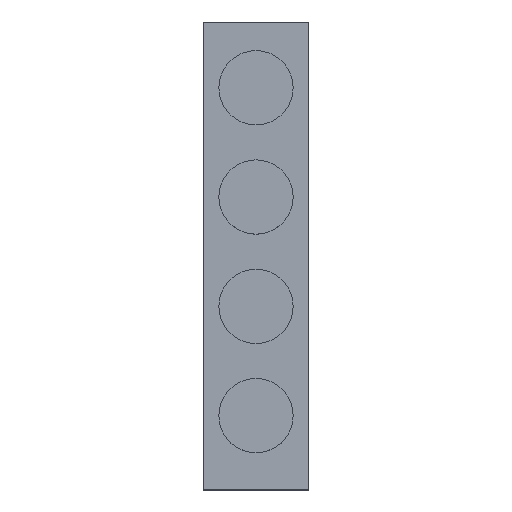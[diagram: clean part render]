
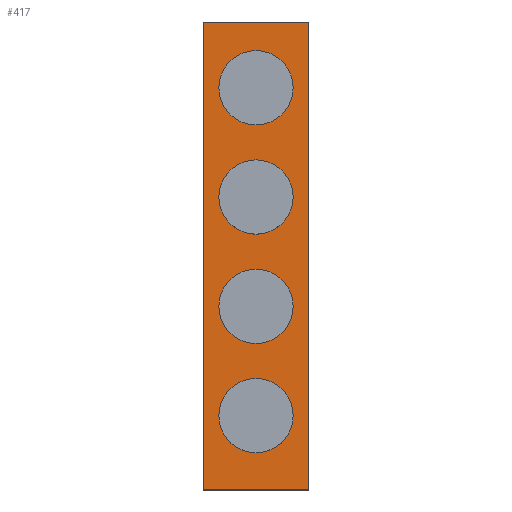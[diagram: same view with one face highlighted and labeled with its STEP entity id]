
A CAD part, top view. The second image highlights one B-rep face of the part: STEP entity #417.
In plain terms, the highlighted planar face has unit normal (0, 0, 1).
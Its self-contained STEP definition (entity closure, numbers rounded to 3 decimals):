
#6 = EDGE_CURVE ( 'NONE', #1102, #1076, #627, .T. ) ;
#13 = EDGE_CURVE ( 'NONE', #1118, #1091, #772, .T. ) ;
#15 = EDGE_CURVE ( 'NONE', #1087, #1110, #630, .T. ) ;
#20 = EDGE_CURVE ( 'NONE', #1069, #1139, #559, .T. ) ;
#23 = EDGE_CURVE ( 'NONE', #848, #815, #591, .T. ) ;
#32 = EDGE_CURVE ( 'NONE', #1110, #1087, #584, .T. ) ;
#40 = EDGE_CURVE ( 'NONE', #815, #848, #650, .T. ) ;
#81 = AXIS2_PLACEMENT_3D ( 'NONE', #908, #882, #991 ) ;
#84 = EDGE_CURVE ( 'NONE', #1139, #1069, #702, .T. ) ;
#94 = AXIS2_PLACEMENT_3D ( 'NONE', #879, #1012, #846 ) ;
#95 = EDGE_CURVE ( 'NONE', #1076, #1102, #663, .T. ) ;
#96 = AXIS2_PLACEMENT_3D ( 'NONE', #507, #520, #440 ) ;
#103 = AXIS2_PLACEMENT_3D ( 'NONE', #888, #969, #922 ) ;
#120 = AXIS2_PLACEMENT_3D ( 'NONE', #831, #914, #803 ) ;
#121 = AXIS2_PLACEMENT_3D ( 'NONE', #1045, #1154, #818 ) ;
#122 = AXIS2_PLACEMENT_3D ( 'NONE', #1065, #889, #1038 ) ;
#123 = AXIS2_PLACEMENT_3D ( 'NONE', #833, #902, #967 ) ;
#128 = AXIS2_PLACEMENT_3D ( 'NONE', #1029, #822, #945 ) ;
#145 = EDGE_CURVE ( 'NONE', #1070, #1118, #716, .T. ) ;
#152 = EDGE_CURVE ( 'NONE', #1091, #959, #681, .T. ) ;
#158 = EDGE_CURVE ( 'NONE', #959, #1070, #726, .T. ) ;
#183 = ORIENTED_EDGE ( 'NONE', *, *, #40, .T. ) ;
#187 = ORIENTED_EDGE ( 'NONE', *, *, #158, .T. ) ;
#237 = ORIENTED_EDGE ( 'NONE', *, *, #6, .T. ) ;
#256 = ORIENTED_EDGE ( 'NONE', *, *, #145, .T. ) ;
#267 = ORIENTED_EDGE ( 'NONE', *, *, #95, .T. ) ;
#276 = ORIENTED_EDGE ( 'NONE', *, *, #23, .T. ) ;
#279 = ORIENTED_EDGE ( 'NONE', *, *, #20, .T. ) ;
#290 = ORIENTED_EDGE ( 'NONE', *, *, #84, .T. ) ;
#294 = ORIENTED_EDGE ( 'NONE', *, *, #152, .T. ) ;
#317 = FACE_BOUND ( 'NONE', #552, .T. ) ;
#337 = FACE_BOUND ( 'NONE', #586, .T. ) ;
#359 = FACE_OUTER_BOUND ( 'NONE', #635, .T. ) ;
#365 = FACE_BOUND ( 'NONE', #618, .T. ) ;
#380 = FACE_BOUND ( 'NONE', #583, .T. ) ;
#417 = ADVANCED_FACE ( 'NONE', ( #337, #365, #380, #317, #359 ), #541, .F. ) ;
#424 = CARTESIAN_POINT ( 'NONE',  ( 0., 241., 37.5 ) ) ;
#440 = DIRECTION ( 'NONE',  ( 0., 1., 0. ) ) ;
#455 = CARTESIAN_POINT ( 'NONE',  ( 0., 105., 37.5 ) ) ;
#471 = CARTESIAN_POINT ( 'NONE',  ( 0., 344., 37.5 ) ) ;
#495 = CARTESIAN_POINT ( 'NONE',  ( 0., 208., 37.5 ) ) ;
#504 = CARTESIAN_POINT ( 'NONE',  ( 0., 35., 37.5 ) ) ;
#506 = CARTESIAN_POINT ( 'NONE',  ( 49.5, 0., 37.5 ) ) ;
#507 = CARTESIAN_POINT ( 'NONE',  ( -49.5, 441., 37.5 ) ) ;
#516 = CARTESIAN_POINT ( 'NONE',  ( 0., 138., 37.5 ) ) ;
#517 = CARTESIAN_POINT ( 'NONE',  ( 0., 414., 37.5 ) ) ;
#519 = CARTESIAN_POINT ( 'NONE',  ( 49.5, 441., 37.5 ) ) ;
#520 = DIRECTION ( 'NONE',  ( 0., 0., -1. ) ) ;
#541 = PLANE ( 'NONE',  #96 ) ;
#548 = CARTESIAN_POINT ( 'NONE',  ( -49.5, 441., 37.5 ) ) ;
#549 = CARTESIAN_POINT ( 'NONE',  ( 0., 311., 37.5 ) ) ;
#550 = CARTESIAN_POINT ( 'NONE',  ( -49.5, 0., 37.5 ) ) ;
#552 = EDGE_LOOP ( 'NONE', ( #237, #267 ) ) ;
#555 = VECTOR ( 'NONE', #829, 1000. ) ;
#559 = CIRCLE ( 'NONE', #120, 35. ) ;
#583 = EDGE_LOOP ( 'NONE', ( #761, #771 ) ) ;
#584 = CIRCLE ( 'NONE', #128, 35. ) ;
#586 = EDGE_LOOP ( 'NONE', ( #279, #290 ) ) ;
#591 = CIRCLE ( 'NONE', #123, 35. ) ;
#618 = EDGE_LOOP ( 'NONE', ( #276, #183 ) ) ;
#627 = CIRCLE ( 'NONE', #122, 35. ) ;
#630 = CIRCLE ( 'NONE', #121, 35. ) ;
#635 = EDGE_LOOP ( 'NONE', ( #294, #187, #256, #788 ) ) ;
#650 = CIRCLE ( 'NONE', #81, 35. ) ;
#658 = VECTOR ( 'NONE', #844, 1000. ) ;
#663 = CIRCLE ( 'NONE', #94, 35. ) ;
#681 = LINE ( 'NONE', #927, #737 ) ;
#702 = CIRCLE ( 'NONE', #103, 35. ) ;
#716 = LINE ( 'NONE', #906, #740 ) ;
#726 = LINE ( 'NONE', #1073, #658 ) ;
#737 = VECTOR ( 'NONE', #828, 1000. ) ;
#740 = VECTOR ( 'NONE', #876, 1000. ) ;
#761 = ORIENTED_EDGE ( 'NONE', *, *, #15, .T. ) ;
#771 = ORIENTED_EDGE ( 'NONE', *, *, #32, .T. ) ;
#772 = LINE ( 'NONE', #1155, #555 ) ;
#788 = ORIENTED_EDGE ( 'NONE', *, *, #13, .T. ) ;
#803 = DIRECTION ( 'NONE',  ( 0., 1., 0. ) ) ;
#815 = VERTEX_POINT ( 'NONE', #495 ) ;
#818 = DIRECTION ( 'NONE',  ( 0., 1., 0. ) ) ;
#822 = DIRECTION ( 'NONE',  ( 0., 0., -1. ) ) ;
#828 = DIRECTION ( 'NONE',  ( 0., -1., 0. ) ) ;
#829 = DIRECTION ( 'NONE',  ( -1., 0., 0. ) ) ;
#831 = CARTESIAN_POINT ( 'NONE',  ( 0., 70., 37.5 ) ) ;
#833 = CARTESIAN_POINT ( 'NONE',  ( 0., 173., 37.5 ) ) ;
#844 = DIRECTION ( 'NONE',  ( 1., 0., 0. ) ) ;
#846 = DIRECTION ( 'NONE',  ( 0., 1., 0. ) ) ;
#848 = VERTEX_POINT ( 'NONE', #516 ) ;
#876 = DIRECTION ( 'NONE',  ( 0., 1., 0. ) ) ;
#879 = CARTESIAN_POINT ( 'NONE',  ( 0., 379., 37.5 ) ) ;
#882 = DIRECTION ( 'NONE',  ( 0., 0., -1. ) ) ;
#888 = CARTESIAN_POINT ( 'NONE',  ( 0., 70., 37.5 ) ) ;
#889 = DIRECTION ( 'NONE',  ( 0., 0., -1. ) ) ;
#902 = DIRECTION ( 'NONE',  ( 0., 0., -1. ) ) ;
#906 = CARTESIAN_POINT ( 'NONE',  ( 49.5, 0., 37.5 ) ) ;
#908 = CARTESIAN_POINT ( 'NONE',  ( 0., 173., 37.5 ) ) ;
#914 = DIRECTION ( 'NONE',  ( 0., 0., -1. ) ) ;
#922 = DIRECTION ( 'NONE',  ( 0., 1., 0. ) ) ;
#927 = CARTESIAN_POINT ( 'NONE',  ( -49.5, 0., 37.5 ) ) ;
#945 = DIRECTION ( 'NONE',  ( 0., 1., 0. ) ) ;
#959 = VERTEX_POINT ( 'NONE', #550 ) ;
#967 = DIRECTION ( 'NONE',  ( 0., 1., 0. ) ) ;
#969 = DIRECTION ( 'NONE',  ( 0., 0., -1. ) ) ;
#991 = DIRECTION ( 'NONE',  ( 0., 1., 0. ) ) ;
#1012 = DIRECTION ( 'NONE',  ( 0., 0., -1. ) ) ;
#1029 = CARTESIAN_POINT ( 'NONE',  ( 0., 276., 37.5 ) ) ;
#1038 = DIRECTION ( 'NONE',  ( 0., 1., 0. ) ) ;
#1045 = CARTESIAN_POINT ( 'NONE',  ( 0., 276., 37.5 ) ) ;
#1065 = CARTESIAN_POINT ( 'NONE',  ( 0., 379., 37.5 ) ) ;
#1069 = VERTEX_POINT ( 'NONE', #504 ) ;
#1070 = VERTEX_POINT ( 'NONE', #506 ) ;
#1073 = CARTESIAN_POINT ( 'NONE',  ( -49.5, 0., 37.5 ) ) ;
#1076 = VERTEX_POINT ( 'NONE', #517 ) ;
#1087 = VERTEX_POINT ( 'NONE', #424 ) ;
#1091 = VERTEX_POINT ( 'NONE', #548 ) ;
#1102 = VERTEX_POINT ( 'NONE', #471 ) ;
#1110 = VERTEX_POINT ( 'NONE', #549 ) ;
#1118 = VERTEX_POINT ( 'NONE', #519 ) ;
#1139 = VERTEX_POINT ( 'NONE', #455 ) ;
#1154 = DIRECTION ( 'NONE',  ( 0., 0., -1. ) ) ;
#1155 = CARTESIAN_POINT ( 'NONE',  ( -49.5, 441., 37.5 ) ) ;
